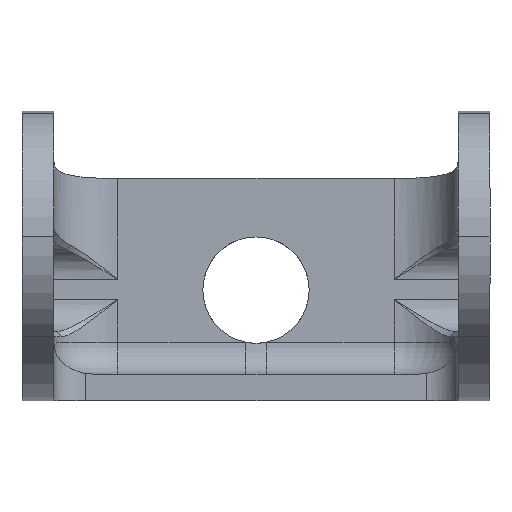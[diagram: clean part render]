
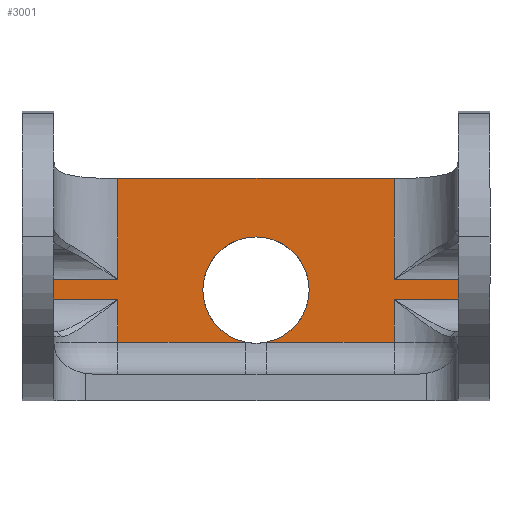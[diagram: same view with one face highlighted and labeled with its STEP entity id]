
A CAD part, front view. The second image highlights one B-rep face of the part: STEP entity #3001.
In plain terms, the highlighted planar face has unit normal (0, -1, 0).
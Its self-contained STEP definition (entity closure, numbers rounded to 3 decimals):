
#14 = CARTESIAN_POINT ( 'NONE',  ( 13., 0., 20. ) ) ;
#155 = DIRECTION ( 'NONE',  ( -1., 0., 0. ) ) ;
#156 = VECTOR ( 'NONE', #4599, 1000. ) ;
#180 = ORIENTED_EDGE ( 'NONE', *, *, #2968, .F. ) ;
#185 = ORIENTED_EDGE ( 'NONE', *, *, #6153, .T. ) ;
#224 = CARTESIAN_POINT ( 'NONE',  ( 22., 0., 5.5 ) ) ;
#226 = LINE ( 'NONE', #6282, #156 ) ;
#248 = ORIENTED_EDGE ( 'NONE', *, *, #4974, .T. ) ;
#287 = CARTESIAN_POINT ( 'NONE',  ( 20.243, 0., -5.9 ) ) ;
#381 = VECTOR ( 'NONE', #6430, 1000. ) ;
#384 = EDGE_CURVE ( 'NONE', #2885, #3690, #5054, .T. ) ;
#412 = CARTESIAN_POINT ( 'NONE',  ( -13., 0., 5.5 ) ) ;
#478 = AXIS2_PLACEMENT_3D ( 'NONE', #5364, #5433, #3179 ) ;
#526 = ORIENTED_EDGE ( 'NONE', *, *, #1537, .T. ) ;
#578 = ORIENTED_EDGE ( 'NONE', *, *, #3174, .T. ) ;
#636 = CARTESIAN_POINT ( 'NONE',  ( 13., 0., 5.5 ) ) ;
#653 = EDGE_CURVE ( 'NONE', #5251, #1040, #226, .T. ) ;
#660 = LINE ( 'NONE', #6605, #2007 ) ;
#811 = CARTESIAN_POINT ( 'NONE',  ( -13., 0., -9.9 ) ) ;
#863 = CARTESIAN_POINT ( 'NONE',  ( 13., 0., -9.9 ) ) ;
#936 = CARTESIAN_POINT ( 'NONE',  ( 22., 0., -5.9 ) ) ;
#967 = DIRECTION ( 'NONE',  ( 0., 0., -1. ) ) ;
#987 = VECTOR ( 'NONE', #5916, 1000. ) ;
#1040 = VERTEX_POINT ( 'NONE', #1783 ) ;
#1067 = VERTEX_POINT ( 'NONE', #3462 ) ;
#1095 = DIRECTION ( 'NONE',  ( 0., 1., 0. ) ) ;
#1377 = CARTESIAN_POINT ( 'NONE',  ( 22., 0., -3.995 ) ) ;
#1436 = DIRECTION ( 'NONE',  ( 0., 1., 0. ) ) ;
#1460 = CARTESIAN_POINT ( 'NONE',  ( 20.243, 0., -3.995 ) ) ;
#1481 = DIRECTION ( 'NONE',  ( 1., 0., 0. ) ) ;
#1537 = EDGE_CURVE ( 'NONE', #1067, #5603, #4140, .T. ) ;
#1615 = CARTESIAN_POINT ( 'NONE',  ( 22., 0., -5.9 ) ) ;
#1783 = CARTESIAN_POINT ( 'NONE',  ( -13., 0., -3.995 ) ) ;
#1825 = CARTESIAN_POINT ( 'NONE',  ( -0.995, 0., -9.9 ) ) ;
#1880 = AXIS2_PLACEMENT_3D ( 'NONE', #2265, #1095, #4995 ) ;
#1954 = VECTOR ( 'NONE', #3214, 1000. ) ;
#2007 = VECTOR ( 'NONE', #6138, 1000. ) ;
#2065 = VERTEX_POINT ( 'NONE', #1825 ) ;
#2091 = LINE ( 'NONE', #4829, #1954 ) ;
#2131 = ORIENTED_EDGE ( 'NONE', *, *, #2548, .F. ) ;
#2133 = LINE ( 'NONE', #1615, #4848 ) ;
#2138 = ORIENTED_EDGE ( 'NONE', *, *, #3666, .T. ) ;
#2200 = VERTEX_POINT ( 'NONE', #811 ) ;
#2265 = CARTESIAN_POINT ( 'NONE',  ( 0., 0., -5. ) ) ;
#2410 = VECTOR ( 'NONE', #967, 1000. ) ;
#2440 = AXIS2_PLACEMENT_3D ( 'NONE', #4588, #1436, #2487 ) ;
#2487 = DIRECTION ( 'NONE',  ( 0., 0., 1. ) ) ;
#2548 = EDGE_CURVE ( 'NONE', #3754, #7025, #4114, .T. ) ;
#2575 = CARTESIAN_POINT ( 'NONE',  ( 13., 0., -5.9 ) ) ;
#2624 = VECTOR ( 'NONE', #5740, 1000. ) ;
#2661 = CIRCLE ( 'NONE', #2440, 5. ) ;
#2814 = VERTEX_POINT ( 'NONE', #5187 ) ;
#2825 = CARTESIAN_POINT ( 'NONE',  ( -13., 0., -5.9 ) ) ;
#2885 = VERTEX_POINT ( 'NONE', #863 ) ;
#2908 = VECTOR ( 'NONE', #6099, 1000. ) ;
#2968 = EDGE_CURVE ( 'NONE', #3096, #3690, #2133, .T. ) ;
#3001 = ADVANCED_FACE ( 'NONE', ( #5331 ), #6449, .F. ) ;
#3002 = EDGE_CURVE ( 'NONE', #3446, #2885, #4408, .T. ) ;
#3066 = CARTESIAN_POINT ( 'NONE',  ( -20.574, 0., -3.995 ) ) ;
#3096 = VERTEX_POINT ( 'NONE', #287 ) ;
#3106 = VERTEX_POINT ( 'NONE', #3066 ) ;
#3174 = EDGE_CURVE ( 'NONE', #2065, #2814, #2661, .T. ) ;
#3179 = DIRECTION ( 'NONE',  ( 0., 0., 1. ) ) ;
#3195 = LINE ( 'NONE', #1460, #381 ) ;
#3214 = DIRECTION ( 'NONE',  ( 1., 0., 0. ) ) ;
#3289 = DIRECTION ( 'NONE',  ( -1., 0., 0. ) ) ;
#3312 = VECTOR ( 'NONE', #3466, 1000. ) ;
#3313 = CARTESIAN_POINT ( 'NONE',  ( -20.574, 0., -5.9 ) ) ;
#3446 = VERTEX_POINT ( 'NONE', #5351 ) ;
#3462 = CARTESIAN_POINT ( 'NONE',  ( 20.243, 0., -3.995 ) ) ;
#3463 = EDGE_CURVE ( 'NONE', #2814, #3446, #3947, .T. ) ;
#3466 = DIRECTION ( 'NONE',  ( 0., 0., -1. ) ) ;
#3663 = ORIENTED_EDGE ( 'NONE', *, *, #6110, .T. ) ;
#3666 = EDGE_CURVE ( 'NONE', #3096, #1067, #3195, .T. ) ;
#3690 = VERTEX_POINT ( 'NONE', #2575 ) ;
#3754 = VERTEX_POINT ( 'NONE', #2825 ) ;
#3820 = ORIENTED_EDGE ( 'NONE', *, *, #5369, .T. ) ;
#3947 = CIRCLE ( 'NONE', #1880, 5. ) ;
#4114 = LINE ( 'NONE', #936, #987 ) ;
#4140 = LINE ( 'NONE', #1377, #4705 ) ;
#4175 = CARTESIAN_POINT ( 'NONE',  ( -20.574, 0., -5.9 ) ) ;
#4268 = CARTESIAN_POINT ( 'NONE',  ( 13., 0., -9.9 ) ) ;
#4290 = ORIENTED_EDGE ( 'NONE', *, *, #6336, .T. ) ;
#4408 = LINE ( 'NONE', #4268, #4637 ) ;
#4588 = CARTESIAN_POINT ( 'NONE',  ( 0., 0., -5. ) ) ;
#4599 = DIRECTION ( 'NONE',  ( 0., 0., -1. ) ) ;
#4612 = DIRECTION ( 'NONE',  ( -1., 0., 0. ) ) ;
#4622 = VERTEX_POINT ( 'NONE', #636 ) ;
#4637 = VECTOR ( 'NONE', #1481, 1000. ) ;
#4640 = CARTESIAN_POINT ( 'NONE',  ( 13., 0., -3.995 ) ) ;
#4705 = VECTOR ( 'NONE', #155, 1000. ) ;
#4740 = LINE ( 'NONE', #5566, #5628 ) ;
#4829 = CARTESIAN_POINT ( 'NONE',  ( 13., 0., -9.9 ) ) ;
#4848 = VECTOR ( 'NONE', #3289, 1000. ) ;
#4974 = EDGE_CURVE ( 'NONE', #3106, #7025, #5565, .T. ) ;
#4995 = DIRECTION ( 'NONE',  ( 0., 0., 1. ) ) ;
#5054 = LINE ( 'NONE', #14, #2908 ) ;
#5187 = CARTESIAN_POINT ( 'NONE',  ( 0., 0., 0. ) ) ;
#5191 = ORIENTED_EDGE ( 'NONE', *, *, #653, .T. ) ;
#5251 = VERTEX_POINT ( 'NONE', #412 ) ;
#5257 = EDGE_LOOP ( 'NONE', ( #180, #2138, #526, #3820, #6708, #5191, #4290, #248, #2131, #185, #3663, #578, #5507, #5594, #6667 ) ) ;
#5331 = FACE_OUTER_BOUND ( 'NONE', #5257, .T. ) ;
#5351 = CARTESIAN_POINT ( 'NONE',  ( 0.995, 0., -9.9 ) ) ;
#5364 = CARTESIAN_POINT ( 'NONE',  ( -19., 0., 20. ) ) ;
#5369 = EDGE_CURVE ( 'NONE', #5603, #4622, #660, .T. ) ;
#5433 = DIRECTION ( 'NONE',  ( 0., 1., 0. ) ) ;
#5507 = ORIENTED_EDGE ( 'NONE', *, *, #3463, .T. ) ;
#5565 = LINE ( 'NONE', #3313, #3312 ) ;
#5566 = CARTESIAN_POINT ( 'NONE',  ( 22., 0., -3.995 ) ) ;
#5594 = ORIENTED_EDGE ( 'NONE', *, *, #3002, .T. ) ;
#5603 = VERTEX_POINT ( 'NONE', #4640 ) ;
#5628 = VECTOR ( 'NONE', #4612, 1000. ) ;
#5740 = DIRECTION ( 'NONE',  ( -1., 0., 0. ) ) ;
#5772 = LINE ( 'NONE', #224, #2624 ) ;
#5916 = DIRECTION ( 'NONE',  ( -1., 0., 0. ) ) ;
#5986 = EDGE_CURVE ( 'NONE', #4622, #5251, #5772, .T. ) ;
#6099 = DIRECTION ( 'NONE',  ( 0., 0., 1. ) ) ;
#6110 = EDGE_CURVE ( 'NONE', #2200, #2065, #2091, .T. ) ;
#6138 = DIRECTION ( 'NONE',  ( 0., 0., 1. ) ) ;
#6153 = EDGE_CURVE ( 'NONE', #3754, #2200, #6978, .T. ) ;
#6282 = CARTESIAN_POINT ( 'NONE',  ( -13., 0., -20. ) ) ;
#6336 = EDGE_CURVE ( 'NONE', #1040, #3106, #4740, .T. ) ;
#6413 = CARTESIAN_POINT ( 'NONE',  ( -13., 0., -20. ) ) ;
#6430 = DIRECTION ( 'NONE',  ( 0., 0., 1. ) ) ;
#6449 = PLANE ( 'NONE',  #478 ) ;
#6605 = CARTESIAN_POINT ( 'NONE',  ( 13., 0., 20. ) ) ;
#6667 = ORIENTED_EDGE ( 'NONE', *, *, #384, .T. ) ;
#6708 = ORIENTED_EDGE ( 'NONE', *, *, #5986, .T. ) ;
#6978 = LINE ( 'NONE', #6413, #2410 ) ;
#7025 = VERTEX_POINT ( 'NONE', #4175 ) ;
